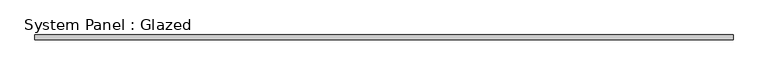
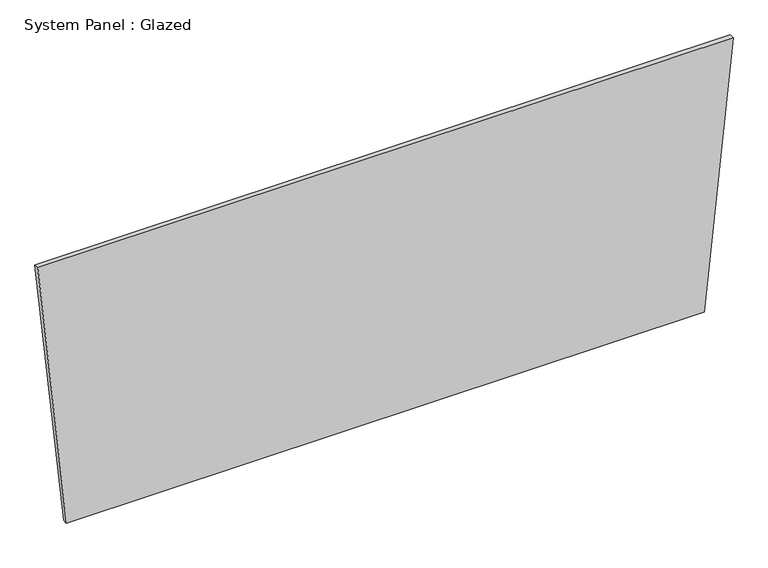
"""IFC4 building model written with IfcOpenShell, lengths in millimetres: plate geometry, System Panel : Glazed."""

from ifc_helpers import new_model, si_unit, frame, origin, place, context, project, spatial, polyline, outline, extrude, source, transform, mapped, element, save


def system_panel_glazed_73e2dce4(model_context):
    return source(origin(), model_context, "Body", "SweptSolid", [
        extrude(outline(polyline([(0.0, -1652.2758457), (0.0, 1652.2758457), (1452.5741974, 1801.000027), (1452.5741974, -1801.000027), (0.0, -1652.2758457)])), frame((0.0, -44.45, 0.0), z_axis=(0.0, 1.0, 0.0), x_axis=(0.0, 0.0, 1.0)), (0.0, 0.0, 1.0), 25.4),
    ])


if __name__ == "__main__":
    model = new_model("IFC4")
    model_context = context("Model", 3, world=origin())
    ifc_project = project(units=[si_unit("LENGTHUNIT", "METRE", prefix="MILLI")], contexts=[model_context])
    site = spatial("IfcSite", under=ifc_project)
    building = spatial("IfcBuilding", under=site)
    placement = place(None, origin())
    system_panel_glazed_shape = system_panel_glazed_73e2dce4(model_context)
    element("IfcPlate", 1, ObjectType="System Panel : Glazed", at=placement, inside=building, context=model_context, shape_type="MappedRepresentation", body=[
        mapped(system_panel_glazed_shape, transform((0.0, 0.0, 0.0), x_axis=(1.0, 0.0, 0.0), y_axis=(0.0, 1.0, 0.0), z_axis=(0.0, 0.0, 1.0))),
    ])
    save(model, "model.ifc")
